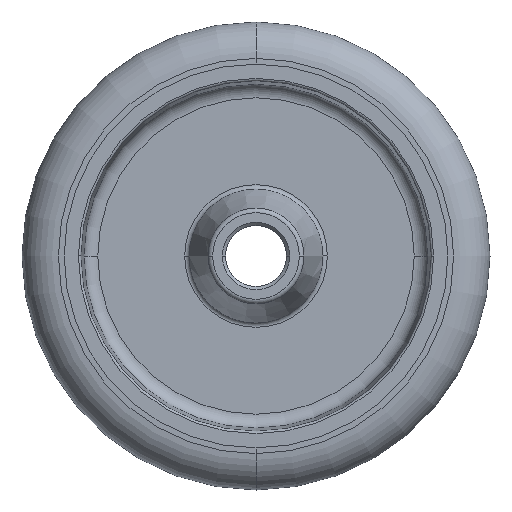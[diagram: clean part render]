
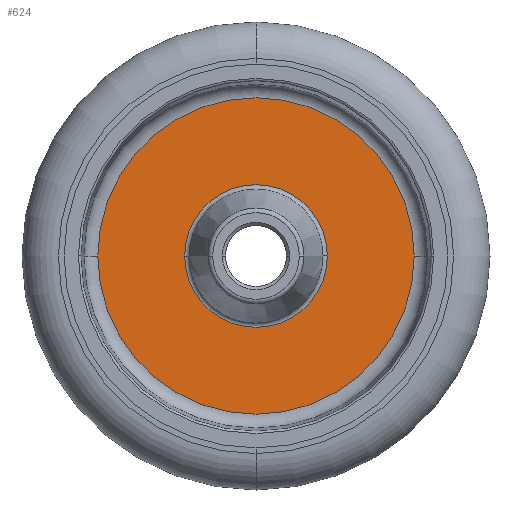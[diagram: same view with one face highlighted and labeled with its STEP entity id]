
A CAD part, left-side view. The second image highlights one B-rep face of the part: STEP entity #624.
In plain terms, the highlighted planar face has unit normal (-1, 0, 0).
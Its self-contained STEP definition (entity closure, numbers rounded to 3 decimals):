
#96=CARTESIAN_POINT('',(-2.75,0.,0.));
#97=DIRECTION('',(1.,0.,0.));
#98=DIRECTION('',(0.,-1.,0.));
#99=AXIS2_PLACEMENT_3D('',#96,#97,#98);
#101=CARTESIAN_POINT('',(-2.75,0.,0.));
#102=DIRECTION('',(1.,0.,0.));
#103=DIRECTION('',(0.,1.,0.));
#104=AXIS2_PLACEMENT_3D('',#101,#102,#103);
#106=CARTESIAN_POINT('',(-2.75,0.,0.));
#107=DIRECTION('',(1.,0.,0.));
#108=DIRECTION('',(0.,-1.,0.));
#109=AXIS2_PLACEMENT_3D('',#106,#107,#108);
#111=CARTESIAN_POINT('',(-2.75,0.,0.));
#112=DIRECTION('',(1.,0.,0.));
#113=DIRECTION('',(0.,1.,0.));
#114=AXIS2_PLACEMENT_3D('',#111,#112,#113);
#421=CARTESIAN_POINT('',(-2.75,-33.799,0.));
#422=CARTESIAN_POINT('',(-2.75,33.799,0.));
#423=VERTEX_POINT('',#421);
#424=VERTEX_POINT('',#422);
#449=CARTESIAN_POINT('',(-2.75,-15.24,0.));
#450=CARTESIAN_POINT('',(-2.75,15.24,0.));
#451=VERTEX_POINT('',#449);
#452=VERTEX_POINT('',#450);
#608=CARTESIAN_POINT('',(-2.75,0.,0.));
#609=DIRECTION('',(1.,0.,0.));
#610=DIRECTION('',(0.,-1.,0.));
#611=AXIS2_PLACEMENT_3D('',#608,#609,#610);
#612=PLANE('',#611);
#614=ORIENTED_EDGE('',*,*,#613,.T.);
#615=ORIENTED_EDGE('',*,*,#591,.T.);
#616=EDGE_LOOP('',(#614,#615));
#617=FACE_OUTER_BOUND('',#616,.F.);
#619=ORIENTED_EDGE('',*,*,#618,.F.);
#621=ORIENTED_EDGE('',*,*,#620,.F.);
#622=EDGE_LOOP('',(#619,#621));
#623=FACE_BOUND('',#622,.F.);
#100=CIRCLE('',#99,33.799);
#105=CIRCLE('',#104,33.799);
#110=CIRCLE('',#109,15.24);
#115=CIRCLE('',#114,15.24);
#591=EDGE_CURVE('',#424,#423,#105,.T.);
#613=EDGE_CURVE('',#423,#424,#100,.T.);
#618=EDGE_CURVE('',#451,#452,#110,.T.);
#620=EDGE_CURVE('',#452,#451,#115,.T.);
#624=ADVANCED_FACE('',(#617,#623),#612,.F.);
